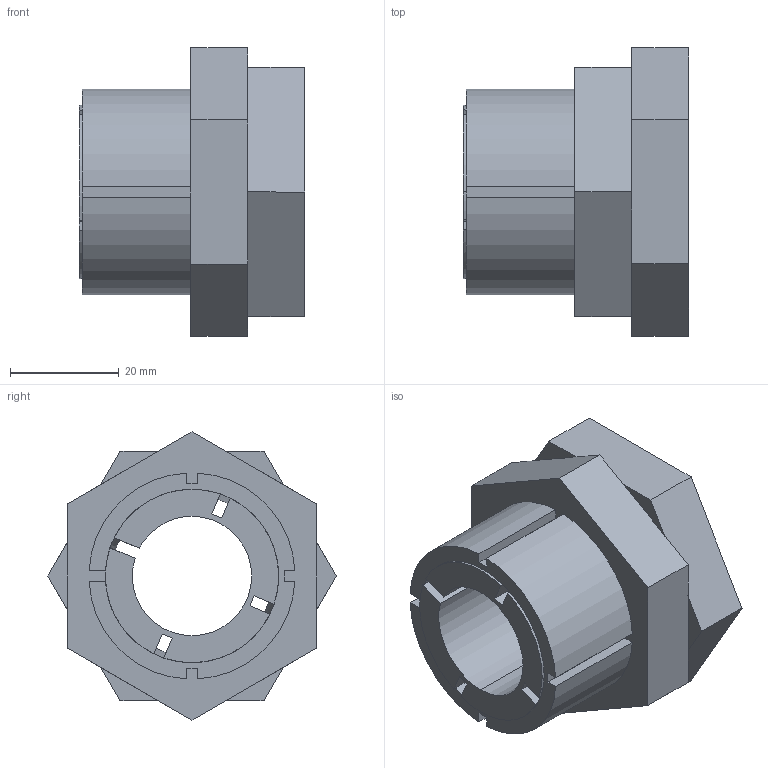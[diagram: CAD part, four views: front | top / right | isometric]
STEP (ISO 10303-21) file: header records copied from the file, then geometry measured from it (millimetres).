
FILE_DESCRIPTION (( 'STEP AP203' ), '1' );
FILE_NAME ('KBS 59 - 22 x 38.STEP', '2015-07-07T21:03:54', ( '' ), ( '' ), 'SwSTEP 2.0', 'SolidWorks 2010', '' );
FILE_SCHEMA (( 'CONFIG_CONTROL_DESIGN' ));
Length unit declared in the file: millimetre
Products named in the file (1): KBS 59 - 22 x 38
Bounding box: 41.5 x 53.12 x 53.12 mm (x, y, z)
Volume: 43985.3 mm3; surface area: 21615 mm2
Topology: 3 solids, 3 shells, 78 faces, 204 edges, 132 vertices
Faces by surface type: plane 56, cylinder 14, cone 8
Entity records: 2469 total; most frequent: CARTESIAN_POINT 451, ORIENTED_EDGE 408, DIRECTION 396, EDGE_CURVE 204, LINE 150, VECTOR 150, VERTEX_POINT 132, AXIS2_PLACEMENT_3D 123
